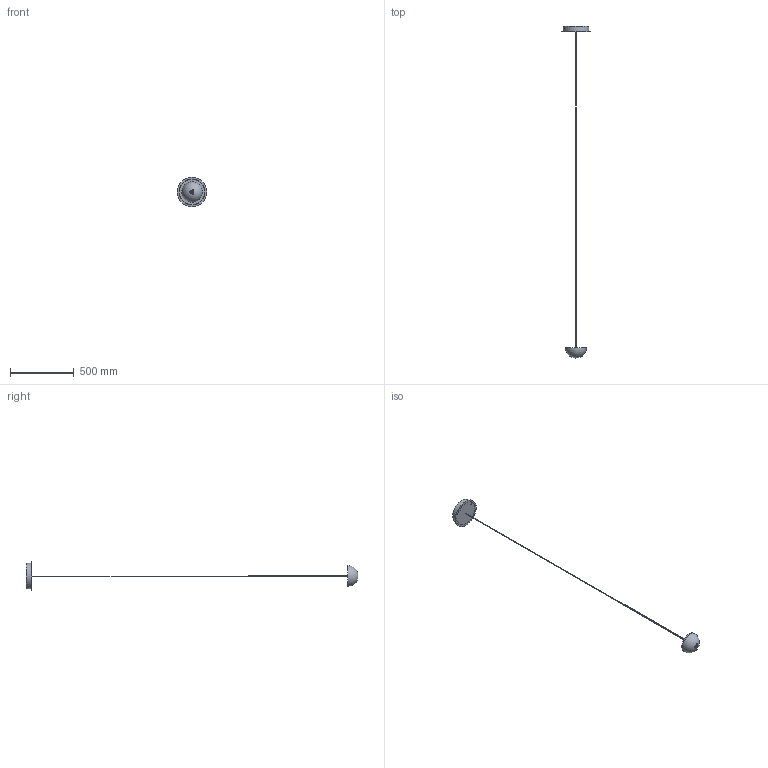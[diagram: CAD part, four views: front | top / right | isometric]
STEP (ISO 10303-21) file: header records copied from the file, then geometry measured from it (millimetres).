
FILE_DESCRIPTION(/* description */ (''),/* implementation_level */ '2;1');
FILE_NAME(/* name */ 'LOUIS XIV.stp',/* time_stamp */ '2024-04-17T09:21:16+02:00',/* author */ ('n.bisotti'),/* organization */ (''),/* preprocessor_version */ 'ST-DEVELOPER v19.2',/* originating_system */ 'Autodesk Inventor 2023',/* authorisation */ '');
FILE_SCHEMA (('AUTOMOTIVE_DESIGN { 1 0 10303 214 3 1 1 }'));
Products named in the file (1): LOUIS XIV
Bounding box: 230 x 2596.15 x 230 mm (x, y, z)
Volume: 1656390.1 mm3; surface area: 397308.4 mm2
Topology: 12 solids, 12 shells, 1609 faces, 4540 edges, 2903 vertices
Faces by surface type: bspline 548, plane 391, cylinder 345, cone 208, torus 109, sphere 8
Full cylindrical faces by diameter (mm): 3 x1, 4.5 x1, 6 x1, 7 x1, 8 x1, 23 x4, 24 x1, 27 x1, 29 x1, 155 x1, 200.7 x1, 230 x1
Entity records: 123809 total; most frequent: CARTESIAN_POINT 85000, ORIENTED_EDGE 9040, DIRECTION 6106, EDGE_CURVE 4520, VERTEX_POINT 2903, AXIS2_PLACEMENT_3D 2576, B_SPLINE_CURVE_WITH_KNOTS 1982, EDGE_LOOP 1671
